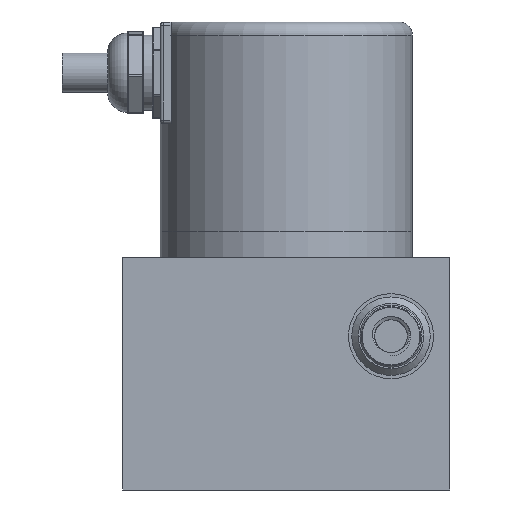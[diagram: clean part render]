
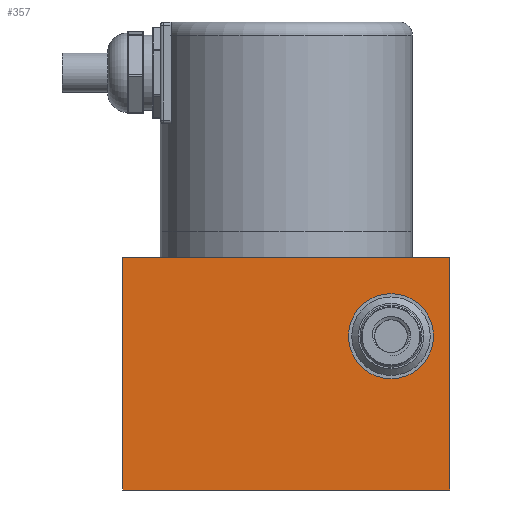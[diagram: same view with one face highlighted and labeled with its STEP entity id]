
A CAD part, front view. The second image highlights one B-rep face of the part: STEP entity #357.
In plain terms, the highlighted planar face has unit normal (0, -1, 0).
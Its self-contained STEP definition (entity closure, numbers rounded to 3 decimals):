
#357=ADVANCED_FACE('',(#595),#542,.F.);
#542=PLANE('',#2895);
#595=FACE_OUTER_BOUND('',#758,.T.);
#758=EDGE_LOOP('',(#1329,#1330,#1331,#1332));
#1106=LINE('',#3951,#1213);
#1109=LINE('',#3957,#1216);
#1110=LINE('',#3959,#1217);
#1111=LINE('',#3961,#1218);
#1213=VECTOR('',#3209,1.);
#1216=VECTOR('',#3214,1.);
#1217=VECTOR('',#3215,1.);
#1218=VECTOR('',#3216,1.);
#1329=ORIENTED_EDGE('',*,*,#2376,.T.);
#1330=ORIENTED_EDGE('',*,*,#2377,.F.);
#1331=ORIENTED_EDGE('',*,*,#2378,.F.);
#1332=ORIENTED_EDGE('',*,*,#2373,.T.);
#2116=VERTEX_POINT('',#3950);
#2117=VERTEX_POINT('',#3952);
#2119=VERTEX_POINT('',#3958);
#2120=VERTEX_POINT('',#3960);
#2373=EDGE_CURVE('',#2117,#2116,#1106,.T.);
#2376=EDGE_CURVE('',#2116,#2119,#1109,.T.);
#2377=EDGE_CURVE('',#2120,#2119,#1110,.T.);
#2378=EDGE_CURVE('',#2117,#2120,#1111,.T.);
#2895=AXIS2_PLACEMENT_3D('',#3962,#3217,#3218);
#3209=DIRECTION('',(0.,0.,-1.));
#3214=DIRECTION('',(1.,0.,0.));
#3215=DIRECTION('',(0.,0.,-1.));
#3216=DIRECTION('',(1.,0.,0.));
#3217=DIRECTION('',(0.,1.,0.));
#3218=DIRECTION('',(0.,0.,1.));
#3950=CARTESIAN_POINT('',(0.,0.,0.));
#3951=CARTESIAN_POINT('',(0.,0.,10.));
#3952=CARTESIAN_POINT('',(0.,0.,35.5));
#3957=CARTESIAN_POINT('',(0.,0.,0.));
#3958=CARTESIAN_POINT('',(50.,0.,0.));
#3959=CARTESIAN_POINT('',(50.,0.,10.));
#3960=CARTESIAN_POINT('',(50.,0.,35.5));
#3961=CARTESIAN_POINT('',(0.,0.,35.5));
#3962=CARTESIAN_POINT('',(0.,0.,10.));
